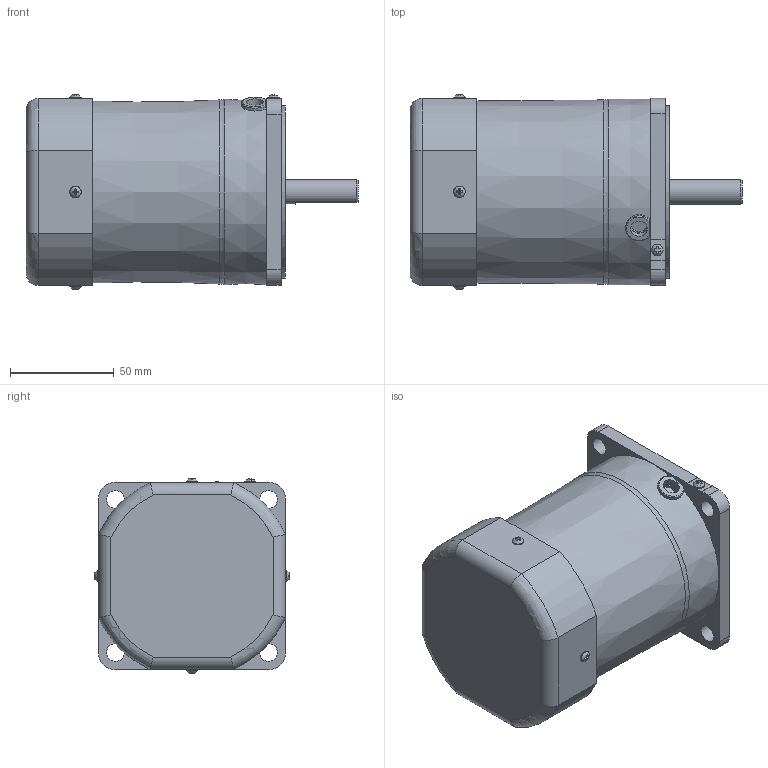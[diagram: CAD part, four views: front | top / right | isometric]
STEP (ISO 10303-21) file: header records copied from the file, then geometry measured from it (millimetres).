
FILE_DESCRIPTION(/* description */ (''),/* implementation_level */ '2;1');
FILE_NAME(/* name */ 'E:\도면작업\2016\0704) 미주향 SG 도면\3D MOTOR\SG9I60D_.stp',/* time_stamp */ '2016-07-22T13:50:15+09:00',/* author */ ('jy-jung'),/* organization */ (''),/* preprocessor_version */ 'ST-DEVELOPER v15.6',/* originating_system */ 'Autodesk Inventor 2015',/* authorisation */ '');
FILE_SCHEMA (('AUTOMOTIVE_DESIGN { 1 0 10303 214 3 1 1 }'));
Length unit declared in the file: millimetre
Products named in the file (1): 부품2
Bounding box: 159.8 x 93.89 x 93.89 mm (x, y, z)
Volume: 793516 mm3; surface area: 57868.7 mm2
Topology: 1 solids, 6 shells, 194 faces, 498 edges, 329 vertices
Faces by surface type: plane 122, cylinder 46, torus 14, cone 7, bspline 5
Full cylindrical faces by diameter (mm): 3 x4, 3.5 x4, 5.6 x5, 8 x1, 8.5 x4, 10 x1, 12 x1, 40 x1, 83 x1
Entity records: 6326 total; most frequent: CARTESIAN_POINT 1622, ORIENTED_EDGE 900, DIRECTION 868, EDGE_CURVE 450, VERTEX_POINT 319, AXIS2_PLACEMENT_3D 313, EDGE_LOOP 263, LINE 242
